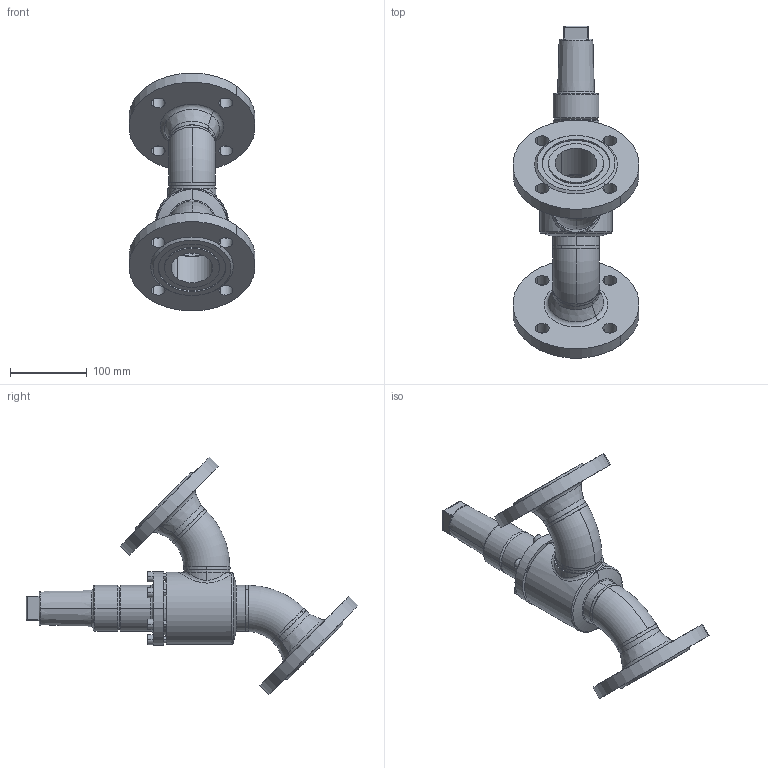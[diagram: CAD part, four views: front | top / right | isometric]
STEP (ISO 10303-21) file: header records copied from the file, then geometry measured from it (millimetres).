
FILE_DESCRIPTION (( 'STEP AP214' ), '1' );
FILE_NAME ('RVA29320D15-DN050_DIN-FL-N_PS40.STEP', '2006-04-28T05:36:52', ( 'Herr Grams' ), ( 'AWP GmbH' ), 'SwSTEP 2.0', 'SolidWorks 2002296', '' );
FILE_SCHEMA (( 'AUTOMOTIVE_DESIGN' ));
Length unit declared in the file: millimetre
Products named in the file (14): RVA29320D15-DN050_DIN-FL-N_PS40; RVA29300E15_Deck-Schr-DN40-50_Standard; Deckel29300E15-DN40-50_Standard; Zylinderschraube-DIN912_M 8x 25; Kappe16402_DN040-65_Standard; Gehäuse-kpl16320-DN050_DIN_PS40_Standard; Gehäuse-kpl16300-DN050_R1_Standard; Gehäuse16300-DN050_Standard; bead16300-Geh-050-2_Standard; bead16300-Geh-050-1_Standard; Rohrbogen 45°_R1-Fase_Rohrbogen-DN050-45°; Flansch-DIN2635-Nut_PS40_DIN-Flansch-DN050_PS40-Nut; bead16320-DN050-1_Standard; bead16320-DN050-2_Standard
Assembly tree (20 placements, depth 4):
  RVA29320D15-DN050_DIN-FL-N_PS40
    Gehäuse-kpl16320-DN050_DIN_PS40_Standard
      Flansch-DIN2635-Nut_PS40_DIN-Flansch-DN050_PS40-Nut  x2
      Gehäuse-kpl16300-DN050_R1_Standard
        Rohrbogen 45°_R1-Fase_Rohrbogen-DN050-45°  x2
        Gehäuse16300-DN050_Standard
        bead16300-Geh-050-1_Standard
        bead16300-Geh-050-2_Standard
      bead16320-DN050-1_Standard
      bead16320-DN050-2_Standard
    RVA29300E15_Deck-Schr-DN40-50_Standard
      Zylinderschraube-DIN912_M 8x 25  x6
      Deckel29300E15-DN40-50_Standard
    Kappe16402_DN040-65_Standard
Bounding box: 164.37 x 433.38 x 310.28 mm (x, y, z)
Volume: 1625561.1 mm3; surface area: 319872.6 mm2
Topology: 17 solids, 17 shells, 352 faces, 817 edges, 516 vertices
Faces by surface type: cylinder 123, plane 105, cone 68, torus 37, bspline 19
Entity records: 55871 total; most frequent: CARTESIAN_POINT 50060, DIRECTION 1082, ORIENTED_EDGE 1046, EDGE_CURVE 523, AXIS2_PLACEMENT_3D 460, VERTEX_POINT 330, EDGE_LOOP 263, CIRCLE 233
